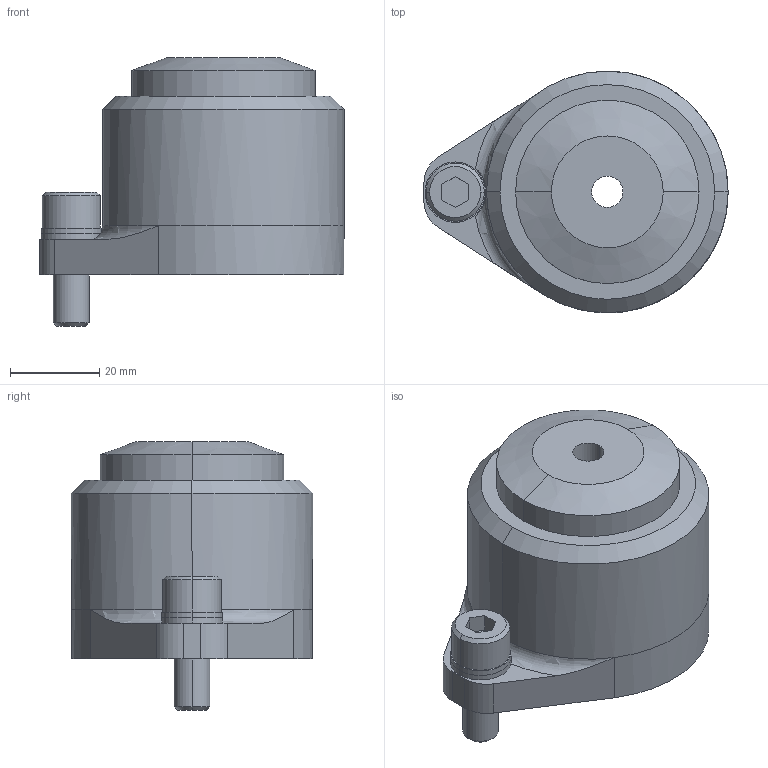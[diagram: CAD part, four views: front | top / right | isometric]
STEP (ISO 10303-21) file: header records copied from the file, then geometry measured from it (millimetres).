
FILE_DESCRIPTION(/* description */ (''),/* implementation_level */ '2;1');
FILE_NAME(/* name */ '3d_spra16-g-p7.00_05386_r00.stp',/* time_stamp */ '2011-01-10T14:10:08+09:00',/* author */ ('MISUMI'),/* organization */ (''),/* preprocessor_version */ 'ST-DEVELOPER v11',/* originating_system */ 'UGS - NX 5.0',/* authorisation */ '');
FILE_SCHEMA (('CONFIG_CONTROL_DESIGN'));
Length unit declared in the file: millimetre
Products named in the file (1): 3d_spra16-g-p7.00_05386_r00
Bounding box: 68 x 54 x 60.1 mm (x, y, z)
Volume: 92446.4 mm3; surface area: 35460.6 mm2
Topology: 6 solids, 6 shells, 74 faces, 164 edges, 106 vertices
Faces by surface type: cylinder 38, plane 26, cone 8, torus 2
Entity records: 2188 total; most frequent: DIRECTION 398, CARTESIAN_POINT 365, ORIENTED_EDGE 328, EDGE_CURVE 164, AXIS2_PLACEMENT_3D 163, VERTEX_POINT 106, EDGE_LOOP 90, CIRCLE 88
